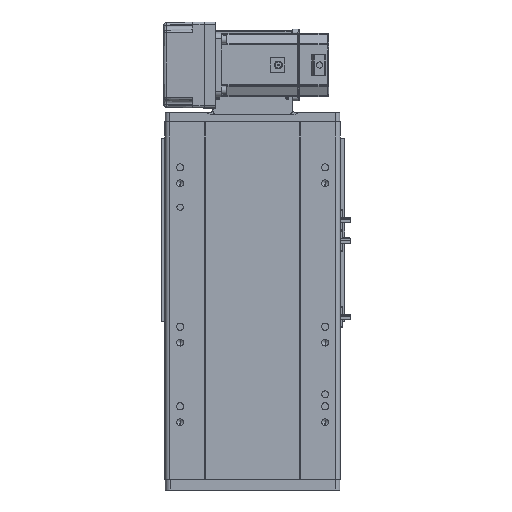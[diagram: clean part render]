
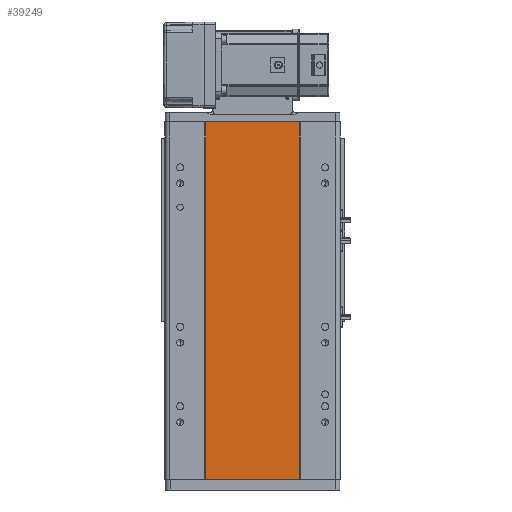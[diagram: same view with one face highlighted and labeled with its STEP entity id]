
A CAD part, front view. The second image highlights one B-rep face of the part: STEP entity #39249.
In plain terms, the highlighted planar face has unit normal (0, -1, 0).
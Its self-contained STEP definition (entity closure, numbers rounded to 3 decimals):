
#3506 = ORIENTED_EDGE ( 'NONE', *, *, #43739, .T. ) ;
#3746 = FACE_OUTER_BOUND ( 'NONE', #44766, .T. ) ;
#3966 = EDGE_CURVE ( 'NONE', #5168, #40113, #5490, .T. ) ;
#4301 = VECTOR ( 'NONE', #11929, 1000. ) ;
#4495 = PLANE ( 'NONE',  #32704 ) ;
#5168 = VERTEX_POINT ( 'NONE', #38198 ) ;
#5490 = LINE ( 'NONE', #19286, #4301 ) ;
#8664 = CARTESIAN_POINT ( 'NONE',  ( -59., 1., -224.5 ) ) ;
#10149 = CARTESIAN_POINT ( 'NONE',  ( 59., 1., 224.5 ) ) ;
#10666 = LINE ( 'NONE', #10149, #36715 ) ;
#11125 = LINE ( 'NONE', #8664, #15325 ) ;
#11757 = CARTESIAN_POINT ( 'NONE',  ( -59., 1., -224.5 ) ) ;
#11929 = DIRECTION ( 'NONE',  ( 1., 0., 0. ) ) ;
#12536 = DIRECTION ( 'NONE',  ( 1., 0., 0. ) ) ;
#15325 = VECTOR ( 'NONE', #12536, 1000. ) ;
#18331 = CARTESIAN_POINT ( 'NONE',  ( 59., 1., -224.5 ) ) ;
#19286 = CARTESIAN_POINT ( 'NONE',  ( -59., 1., 224.5 ) ) ;
#19488 = CARTESIAN_POINT ( 'NONE',  ( 59., 1., 224.5 ) ) ;
#23625 = ORIENTED_EDGE ( 'NONE', *, *, #3966, .F. ) ;
#25703 = DIRECTION ( 'NONE',  ( 0., 0., -1. ) ) ;
#26945 = VERTEX_POINT ( 'NONE', #18331 ) ;
#27726 = CARTESIAN_POINT ( 'NONE',  ( -59., 1., 224.5 ) ) ;
#28754 = ORIENTED_EDGE ( 'NONE', *, *, #31239, .T. ) ;
#31001 = CARTESIAN_POINT ( 'NONE',  ( -59., 1., 224.5 ) ) ;
#31168 = DIRECTION ( 'NONE',  ( 0., 1., 0. ) ) ;
#31239 = EDGE_CURVE ( 'NONE', #5168, #32197, #49579, .T. ) ;
#31657 = DIRECTION ( 'NONE',  ( -1., 0., 0. ) ) ;
#32197 = VERTEX_POINT ( 'NONE', #11757 ) ;
#32704 = AXIS2_PLACEMENT_3D ( 'NONE', #31001, #31168, #31657 ) ;
#36715 = VECTOR ( 'NONE', #25703, 1000. ) ;
#38198 = CARTESIAN_POINT ( 'NONE',  ( -59., 1., 224.5 ) ) ;
#39249 = ADVANCED_FACE ( 'NONE', ( #3746 ), #4495, .F. ) ;
#40113 = VERTEX_POINT ( 'NONE', #19488 ) ;
#42179 = EDGE_CURVE ( 'NONE', #40113, #26945, #10666, .T. ) ;
#42193 = ORIENTED_EDGE ( 'NONE', *, *, #42179, .F. ) ;
#43513 = DIRECTION ( 'NONE',  ( 0., 0., -1. ) ) ;
#43739 = EDGE_CURVE ( 'NONE', #32197, #26945, #11125, .T. ) ;
#44766 = EDGE_LOOP ( 'NONE', ( #3506, #42193, #23625, #28754 ) ) ;
#47160 = VECTOR ( 'NONE', #43513, 1000. ) ;
#49579 = LINE ( 'NONE', #27726, #47160 ) ;
